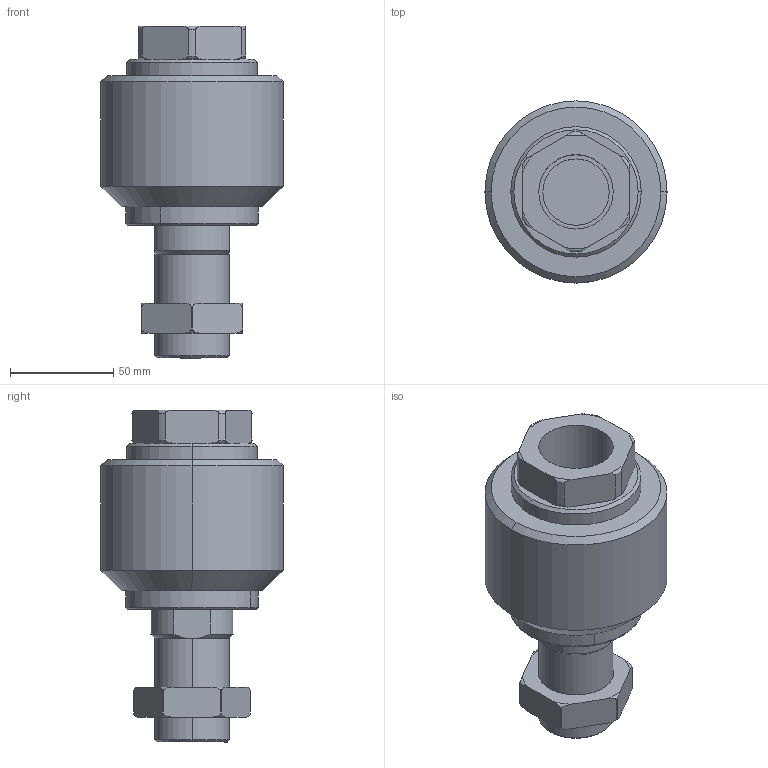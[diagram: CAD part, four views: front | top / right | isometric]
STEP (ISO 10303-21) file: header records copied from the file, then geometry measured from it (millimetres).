
FILE_DESCRIPTION(('CATIA V5 STEP Exchange'),'2;1');
FILE_NAME('D:\stp file for catalog\BAST-FC\FC 36.stp','2018-06-12T06:00:09+00:00',('none'),('none'),'CATIA Version 5-6 Release 2016','CATIA V5 STEP AP203','none');
FILE_SCHEMA(('CONFIG_CONTROL_DESIGN'));
Length unit declared in the file: millimetre
Products named in the file (1): FC 36
Bounding box: 88 x 88 x 160.4 mm (x, y, z)
Volume: 457332.9 mm3; surface area: 59325.8 mm2
Topology: 2 solids, 2 shells, 97 faces, 242 edges, 156 vertices
Faces by surface type: cylinder 32, torus 28, plane 25, cone 12
Entity records: 3250 total; most frequent: CARTESIAN_POINT 1163, ORIENTED_EDGE 484, DIRECTION 302, EDGE_CURVE 242, AXIS2_PLACEMENT_3D 165, VERTEX_POINT 156, CIRCLE 108, EDGE_LOOP 106
